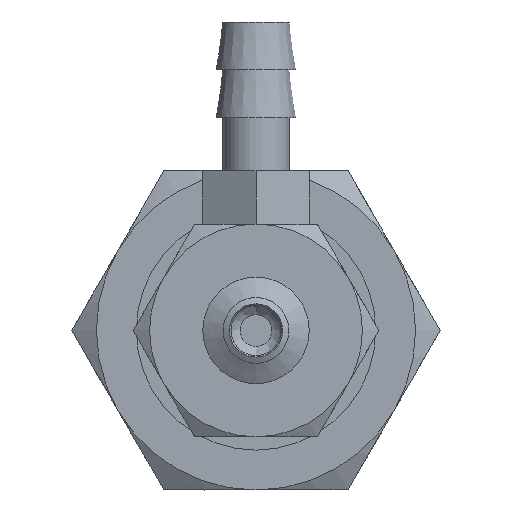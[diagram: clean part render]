
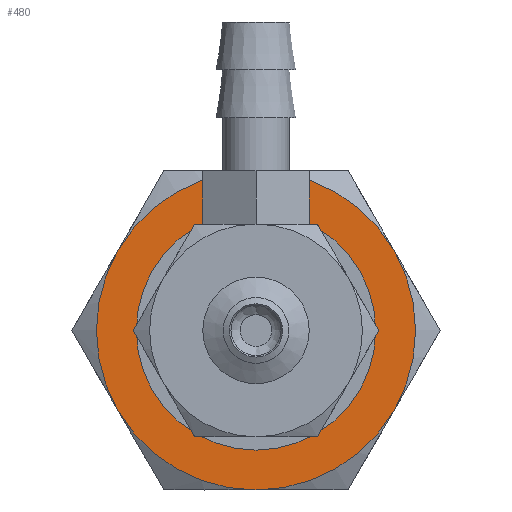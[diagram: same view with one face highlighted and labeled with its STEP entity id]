
A CAD part, front view. The second image highlights one B-rep face of the part: STEP entity #480.
In plain terms, the highlighted planar face has unit normal (0, -1, 0) as drawn and (-1, 0, 0) by its records, which use the part's own axes.
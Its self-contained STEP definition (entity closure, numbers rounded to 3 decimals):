
#480=ADVANCED_FACE('',(#644,#645),#646,.F.);
#644=FACE_BOUND('',#971,.T.);
#645=FACE_OUTER_BOUND('',#972,.T.);
#646=PLANE('',#973);
#971=EDGE_LOOP('',(#1448));
#972=EDGE_LOOP('',(#1449,#1450,#1451,#1452,#1453,#1454));
#973=AXIS2_PLACEMENT_3D('',#1455,#1456,#1457);
#1448=ORIENTED_EDGE('',*,*,#2207,.T.);
#1449=ORIENTED_EDGE('',*,*,#2206,.F.);
#1450=ORIENTED_EDGE('',*,*,#2179,.F.);
#1451=ORIENTED_EDGE('',*,*,#2171,.F.);
#1452=ORIENTED_EDGE('',*,*,#2198,.F.);
#1453=ORIENTED_EDGE('',*,*,#2201,.F.);
#1454=ORIENTED_EDGE('',*,*,#2209,.F.);
#1455=CARTESIAN_POINT('',(0.,0.0,0.0));
#1456=DIRECTION('',(1.0,0.0,0.0));
#1457=DIRECTION('',(0.0,1.0,0.0));
#2171=EDGE_CURVE('',#2427,#2428,#2429,.T.);
#2179=EDGE_CURVE('',#2428,#2442,#2443,.T.);
#2198=EDGE_CURVE('',#2475,#2427,#2476,.T.);
#2201=EDGE_CURVE('',#2462,#2475,#2479,.T.);
#2206=EDGE_CURVE('',#2442,#2483,#2486,.T.);
#2207=EDGE_CURVE('',#2487,#2487,#2488,.T.);
#2209=EDGE_CURVE('',#2483,#2462,#2491,.T.);
#2427=VERTEX_POINT('',#2855);
#2428=VERTEX_POINT('',#2856);
#2429=CIRCLE('',#2857,6.0);
#2442=VERTEX_POINT('',#2922);
#2443=CIRCLE('',#2923,6.0);
#2462=VERTEX_POINT('',#3005);
#2475=VERTEX_POINT('',#3079);
#2476=CIRCLE('',#3080,6.0);
#2479=CIRCLE('',#3103,6.0);
#2483=VERTEX_POINT('',#3127);
#2486=CIRCLE('',#3150,6.0);
#2487=VERTEX_POINT('',#3151);
#2488=CIRCLE('',#3152,4.0);
#2491=CIRCLE('',#3155,6.0);
#2855=CARTESIAN_POINT('',(0.,-5.196,-3.0));
#2856=CARTESIAN_POINT('',(0.,0.0,-6.0));
#2857=AXIS2_PLACEMENT_3D('',#3685,#3686,#3687);
#2922=CARTESIAN_POINT('',(0.,5.196,-3.0));
#2923=AXIS2_PLACEMENT_3D('',#3690,#3691,#3692);
#3005=CARTESIAN_POINT('',(0.,0.0,6.0));
#3079=CARTESIAN_POINT('',(0.,-5.196,3.0));
#3080=AXIS2_PLACEMENT_3D('',#3703,#3704,#3705);
#3103=AXIS2_PLACEMENT_3D('',#3706,#3707,#3708);
#3127=CARTESIAN_POINT('',(0.,5.196,3.0));
#3150=AXIS2_PLACEMENT_3D('',#3709,#3710,#3711);
#3151=CARTESIAN_POINT('',(0.,0.0,-4.0));
#3152=AXIS2_PLACEMENT_3D('',#3712,#3713,#3714);
#3155=AXIS2_PLACEMENT_3D('',#3718,#3719,#3720);
#3685=CARTESIAN_POINT('',(0.,0.0,0.0));
#3686=DIRECTION('',(1.0,0.0,0.0));
#3687=DIRECTION('',(0.0,0.0,-1.0));
#3690=CARTESIAN_POINT('',(0.,0.0,0.0));
#3691=DIRECTION('',(1.0,0.0,0.0));
#3692=DIRECTION('',(0.0,0.0,-1.0));
#3703=CARTESIAN_POINT('',(0.,0.0,0.0));
#3704=DIRECTION('',(1.0,0.0,0.0));
#3705=DIRECTION('',(0.0,0.0,-1.0));
#3706=CARTESIAN_POINT('',(0.,0.0,0.0));
#3707=DIRECTION('',(1.0,0.0,0.0));
#3708=DIRECTION('',(0.0,0.0,-1.0));
#3709=CARTESIAN_POINT('',(0.,0.0,0.0));
#3710=DIRECTION('',(1.0,0.0,0.0));
#3711=DIRECTION('',(0.0,0.0,-1.0));
#3712=CARTESIAN_POINT('',(0.,0.0,0.0));
#3713=DIRECTION('',(1.0,0.0,0.0));
#3714=DIRECTION('',(0.0,0.0,-1.0));
#3718=CARTESIAN_POINT('',(0.,0.0,0.0));
#3719=DIRECTION('',(1.0,0.0,0.0));
#3720=DIRECTION('',(0.0,0.0,-1.0));
